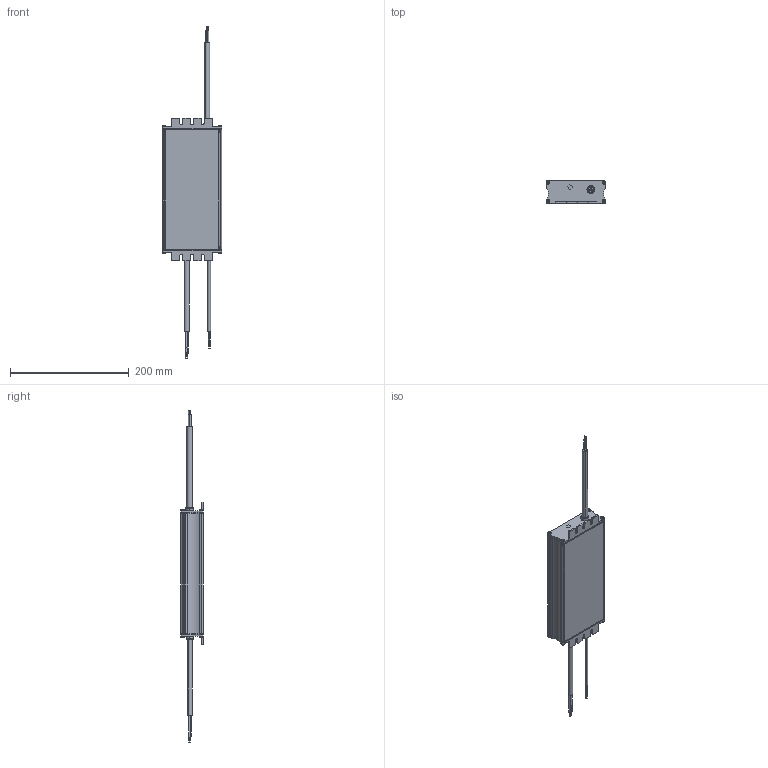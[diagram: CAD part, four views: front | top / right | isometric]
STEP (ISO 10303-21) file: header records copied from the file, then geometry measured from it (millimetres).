
FILE_DESCRIPTION (( 'STEP AP203' ), '1' );
FILE_NAME ('USC4-320280GA ASS_20200324.STEP', '2020-03-24T08:05:29', ( '' ), ( '' ), 'SwSTEP 2.0', 'SolidWorks 2016', '' );
FILE_SCHEMA (( 'CONFIG_CONTROL_DESIGN' ));
Length unit declared in the file: millimetre
Products named in the file (10): Output cable x3-C4; M3-10D63; Input cable x3-C4; 324723710000; USC4-320280GA ASS_20200324; 399209800000; 399214490000; 324723690000; Dimming Cable-C4; 399214500000
Assembly tree (16 placements, depth 2):
  USC4-320280GA ASS_20200324
    399209800000
    324723710000
    399214500000
    399214490000
    324723690000
    Input cable x3-C4
    M3-10D63  x8
    Output cable x3-C4
    Dimming Cable-C4
Bounding box: 100.3 x 38.3 x 559.1 mm (x, y, z)
Volume: 199108.6 mm3; surface area: 168318.7 mm2
Topology: 16 solids, 16 shells, 1226 faces, 3225 edges, 2098 vertices
Faces by surface type: cylinder 533, plane 406, bspline 187, torus 44, cone 40, sphere 16
Entity records: 36884 total; most frequent: CARTESIAN_POINT 17938, ORIENTED_EDGE 3930, DIRECTION 3201, EDGE_CURVE 1965, VERTEX_POINT 1293, AXIS2_PLACEMENT_3D 1075, LINE 1051, VECTOR 1051
